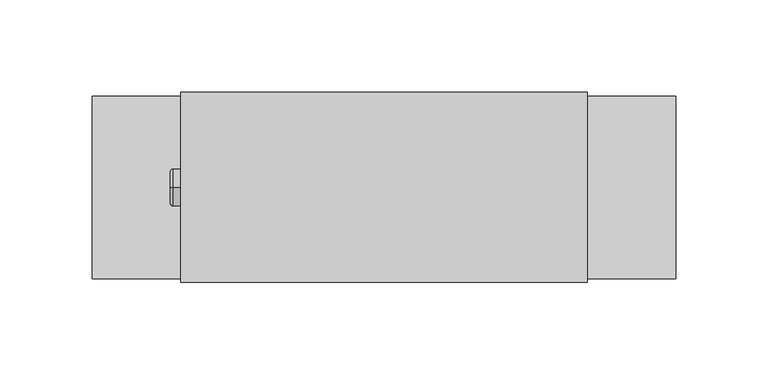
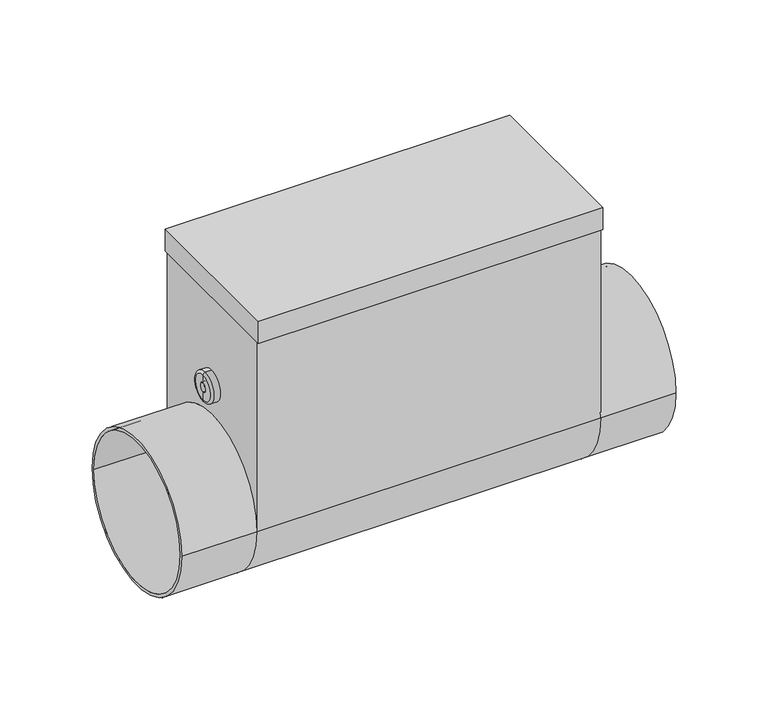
"""IFC4 building model written with IfcOpenShell, lengths in millimetres: proxy geometry, СВ_ВоздухонагревательЭлектрический_КанальныйКруглый_DN100-315_SKH-E : SKH-E-100/1,5."""

from ifc_helpers import new_model, si_unit, point, frame, origin, place, context, project, spatial, polyline, circle_curve, ellipse_curve, trimmed, outline, extrude, source, transform, mapped, element, save
from ifc_brep_helpers import plane_surface, cylinder_surface, revolved_surface, advanced_brep


def mechanical_equipment_1c517ccd(model_context):
    return source(origin(), model_context, "Body", "SolidModel", [
        extrude(outline(polyline([(110.0, -51.5), (-110.0, -51.5), (-110.0, 51.5), (110.0, 51.5), (110.0, -51.5)])), frame((0.0, 0.0, 128.5), z_axis=(0.0, 0.0, 1.0), x_axis=(1.0, 0.0, 0.0)), (0.0, 0.0, 1.0), 15.0),
        advanced_brep(
        [(-158.0, -49.5, 0.0), (-158.0, 49.5, 0.0), (-158.0, -47.5, 0.0), (-158.0, 47.5, 0.0), (-110.0, 47.5, 0.0), (-110.0, -47.5, 0.0), (-110.0, 49.5, 0.0), (-110.0, -49.5, 0.0), (110.0, -47.5, 0.0), (110.0, 47.5, 0.0), (110.0, -49.5, 128.5), (110.0, -49.5, 0.0), (110.0, 49.5, 0.0), (110.0, 49.5, 128.5), (-110.0, -49.5, 128.5), (-110.0, 49.5, 128.5), (158.0, -49.5, 0.0), (158.0, 49.5, 0.0), (158.0, -47.5, 0.0), (158.0, 47.5, 0.0)],
        [
            (0, 1, circle_curve(frame((-158.0, 0.0, 0.0), z_axis=(-1.0, 0.0, 0.0), x_axis=(0.0, 1.0, 0.0)), 49.5)),
            (1, 0, circle_curve(frame((-158.0, 0.0, 0.0), z_axis=(-1.0, 0.0, 0.0), x_axis=(0.0, 1.0, 0.0)), 49.5)),
            (2, 3, circle_curve(frame((-158.0, 0.0, 0.0), z_axis=(1.0, 0.0, 0.0), x_axis=(0.0, 1.0, 0.0)), 47.5)),
            (3, 2, circle_curve(frame((-158.0, 0.0, 0.0), z_axis=(1.0, 0.0, 0.0), x_axis=(0.0, 1.0, 0.0)), 47.5)),
            (3, 4),
            (4, 5, circle_curve(frame((-110.0, 0.0, 0.0), z_axis=(1.0, 0.0, 0.0), x_axis=(0.0, 1.0, 0.0)), 47.5)),
            (5, 2),
            (5, 4, circle_curve(frame((-110.0, 0.0, 0.0), z_axis=(1.0, 0.0, 0.0), x_axis=(0.0, 1.0, 0.0)), 47.5)),
            (1, 6),
            (6, 7, circle_curve(frame((-110.0, 0.0, 0.0), z_axis=(-1.0, 0.0, 0.0), x_axis=(0.0, 1.0, 0.0)), 49.5)),
            (7, 0),
            (7, 6, circle_curve(frame((-110.0, 0.0, 0.0), z_axis=(-1.0, 0.0, 0.0), x_axis=(0.0, 1.0, 0.0)), 49.5)),
            (8, 9, circle_curve(frame((110.0, 0.0, 0.0), z_axis=(1.0, 0.0, 0.0), x_axis=(0.0, 1.0, 0.0)), 47.5)),
            (9, 8, circle_curve(frame((110.0, 0.0, 0.0), z_axis=(1.0, 0.0, 0.0), x_axis=(0.0, 1.0, 0.0)), 47.5)),
            (10, 11),
            (11, 12, circle_curve(frame((110.0, 0.0, 0.0), z_axis=(-1.0, 0.0, 0.0), x_axis=(0.0, 1.0, 0.0)), 49.5)),
            (12, 13),
            (13, 10),
            (7, 14),
            (14, 15),
            (15, 6),
            (6, 12),
            (12, 11, circle_curve(frame((110.0, 0.0, 0.0), z_axis=(-1.0, 0.0, 0.0), x_axis=(0.0, 1.0, 0.0)), 49.5)),
            (11, 7),
            (16, 17, circle_curve(frame((158.0, 0.0, 0.0), z_axis=(1.0, 0.0, 0.0), x_axis=(0.0, 1.0, 0.0)), 49.5)),
            (17, 16, circle_curve(frame((158.0, 0.0, 0.0), z_axis=(1.0, 0.0, 0.0), x_axis=(0.0, 1.0, 0.0)), 49.5)),
            (18, 19, circle_curve(frame((158.0, 0.0, 0.0), z_axis=(-1.0, 0.0, 0.0), x_axis=(0.0, 1.0, 0.0)), 47.5)),
            (19, 18, circle_curve(frame((158.0, 0.0, 0.0), z_axis=(-1.0, 0.0, 0.0), x_axis=(0.0, 1.0, 0.0)), 47.5)),
            (18, 8),
            (9, 19),
            (16, 11),
            (12, 17),
            (10, 14),
            (15, 13),
        ],
        [
            plane_surface(frame((-158.0, 47.5, 0.0), z_axis=(-1.0, 0.0, 0.0), x_axis=(0.0, 0.0, 1.0))),
            revolved_surface(polyline([(-158.0, 47.5, 0.0), (-110.0, 47.5, 0.0)]), (-158.0, 0.0, 0.0), (-1.0, 0.0, 0.0)),
            cylinder_surface(frame((0.0, 0.0, 0.0), z_axis=(1.0, 0.0, 0.0), x_axis=(0.0, 1.0, 0.0)), 49.5),
            plane_surface(frame((110.0, 49.5, 0.0), z_axis=(1.0, 0.0, 0.0), x_axis=(0.0, -1.0, 0.0))),
            plane_surface(frame((-110.0, 49.5, 0.0), z_axis=(-1.0, 0.0, 0.0), x_axis=(0.0, 1.0, 0.0))),
            cylinder_surface(frame((-110.0, 0.0, 0.0), z_axis=(1.0, 0.0, 0.0), x_axis=(0.0, 1.0, 0.0)), 49.5),
            plane_surface(frame((158.0, 47.5, 0.0), z_axis=(1.0, 0.0, 0.0), x_axis=(0.0, 0.0, -1.0))),
            revolved_surface(polyline([(110.0, 47.5, 0.0), (158.0, 47.5, 0.0)]), (110.0, 0.0, 0.0), (-1.0, 0.0, 0.0)),
            plane_surface(frame((-110.0, -49.5, 128.5), z_axis=(0.0, -1.0, 0.0), x_axis=(-1.0, 0.0, 0.0))),
            plane_surface(frame((-110.0, 49.5, 128.5), z_axis=(0.0, 1.0, 0.0), x_axis=(1.0, 0.0, 0.0))),
            plane_surface(frame((110.0, -49.5, 128.5), z_axis=(0.0, 0.0, 1.0), x_axis=(0.0, 1.0, 0.0))),
        ],
        [
            (0, [[1, 2], [3, 4]]),
            (1, [[-4, 5, 6, 7]]),
            (1, [[-3, -7, 8, -5]]),
            (2, [[-2, 9, 10, 11]]),
            (2, [[-1, -11, 12, -9]]),
            (3, [[13, 14]]),
            (3, [[15, 16, 17, 18]]),
            (4, [[-8, -6]]),
            (4, [[19, 20, 21, -12]]),
            (5, [[-10, 22, 23, 24]]),
            (6, [[25, 26], [27, 28]]),
            (7, [[-27, 29, -14, 30]]),
            (7, [[-28, -30, -13, -29]]),
            (2, [[-25, 31, -23, 32]]),
            (2, [[-26, -32, -16, -31]]),
            (8, [[33, -19, -24, -15]]),
            (9, [[-17, -22, -21, 34]]),
            (10, [[-33, -18, -34, -20]]),
        ],
    ),
        advanced_brep(
        [(-114.2840134, 0.0, 59.5), (-114.2840134, 0.0, 79.5), (-110.0, 0.0, 79.5), (-110.0, 0.0, 59.5), (-115.7459771, 0.0, 60.9619637), (-115.7459771, 0.0, 78.0380363), (-115.7459771, 0.0, 66.3948071), (-115.7459771, 0.0, 72.6051929), (-113.4138357, 0.0, 66.3948071), (-113.4138357, 0.0, 72.6051929), (-113.4138357, 0.0, 69.5), (-110.0, 0.0, 69.5)],
        [
            (0, 1, circle_curve(frame((-114.2840134, 0.0, 69.5), z_axis=(1.0, 0.0, 0.0), x_axis=(0.0, 0.0, 1.0)), 10.0)),
            (1, 2),
            (2, 3, circle_curve(frame((-110.0, 0.0, 69.5), z_axis=(-1.0, 0.0, 0.0), x_axis=(0.0, 0.0, 1.0)), 10.0)),
            (3, 0),
            (1, 0, circle_curve(frame((-114.2840134, 0.0, 69.5), z_axis=(1.0, 0.0, 0.0), x_axis=(0.0, 0.0, 1.0)), 10.0)),
            (3, 2, circle_curve(frame((-110.0, 0.0, 69.5), z_axis=(-1.0, 0.0, 0.0), x_axis=(0.0, 0.0, 1.0)), 10.0)),
            (4, 5, circle_curve(frame((-115.7459771, 0.0, 69.5), z_axis=(1.0, 0.0, 0.0), x_axis=(0.0, 0.0, 1.0)), 8.5380363)),
            (5, 1, circle_curve(frame((-114.2840134, 0.0, 78.0380363), z_axis=(0.0, 1.0, 0.0), x_axis=(1.0, 0.0, 0.0)), 1.4619637)),
            (0, 4, circle_curve(frame((-114.2840134, 0.0, 60.9619637), z_axis=(0.0, 1.0, 0.0), x_axis=(1.0, 0.0, 0.0)), 1.4619637)),
            (5, 4, circle_curve(frame((-115.7459771, 0.0, 69.5), z_axis=(1.0, 0.0, 0.0), x_axis=(0.0, 0.0, 1.0)), 8.5380363)),
            (6, 7, circle_curve(frame((-115.7459771, 0.0, 69.5), z_axis=(1.0, 0.0, 0.0), x_axis=(0.0, 0.0, 1.0)), 3.1051929)),
            (7, 5),
            (4, 6),
            (7, 6, circle_curve(frame((-115.7459771, 0.0, 69.5), z_axis=(1.0, 0.0, 0.0), x_axis=(0.0, 0.0, 1.0)), 3.1051929)),
            (8, 9, circle_curve(frame((-113.4138357, 0.0, 69.5), z_axis=(1.0, 0.0, 0.0), x_axis=(0.0, 0.0, 1.0)), 3.1051929)),
            (9, 7),
            (6, 8),
            (9, 8, circle_curve(frame((-113.4138357, 0.0, 69.5), z_axis=(1.0, 0.0, 0.0), x_axis=(0.0, 0.0, 1.0)), 3.1051929)),
            (10, 9),
            (8, 10),
            (2, 11),
            (11, 3),
        ],
        [
            cylinder_surface(frame((-145.6635229, 0.0, 69.5), z_axis=(-1.0, 0.0, 0.0), x_axis=(0.0, 0.0, 1.0)), 10.0),
            revolved_surface(trimmed(ellipse_curve(frame((-114.2840134, 0.0, 78.0380363), z_axis=(0.0, -1.0, 0.0), x_axis=(1.0, 0.0, 0.0)), 1.4619637, 1.4619637), [point((-114.2840134, 0.0, 79.5))], [point((-115.7459771, 0.0, 78.0380363))], True, "CARTESIAN"), (-145.6635229, 0.0, 69.5), (-1.0, 0.0, 0.0)),
            plane_surface(frame((-115.7459771, 0.0, 69.5), z_axis=(-1.0, 0.0, 0.0), x_axis=(0.0, 0.0, 1.0))),
            revolved_surface(polyline([(-115.7459771, 0.0, 72.6051929), (-113.4138357, 0.0, 72.6051929)]), (-145.6635229, 0.0, 69.5), (-1.0, 0.0, 0.0)),
            plane_surface(frame((-113.4138357, 0.0, 69.5), z_axis=(-1.0, 0.0, 0.0), x_axis=(0.0, 0.0, 1.0))),
            plane_surface(frame((-110.0, 0.0, 69.5), z_axis=(1.0, 0.0, 0.0), x_axis=(0.0, 0.0, 1.0))),
        ],
        [
            (0, [[1, 2, 3, 4]]),
            (0, [[5, -4, 6, -2]]),
            (1, [[7, 8, -1, 9]]),
            (1, [[10, -9, -5, -8]]),
            (2, [[11, 12, -7, 13]]),
            (2, [[14, -13, -10, -12]]),
            (3, [[15, 16, -11, 17]]),
            (3, [[18, -17, -14, -16]]),
            (4, [[19, -15, 20]]),
            (4, [[-20, -18, -19]]),
            (5, [[-3, 21, 22]]),
            (5, [[-6, -22, -21]]),
        ],
    ),
    ])


if __name__ == "__main__":
    model = new_model("IFC4")
    model_context = context("Model", 3, world=origin())
    ifc_project = project(units=[si_unit("LENGTHUNIT", "METRE", prefix="MILLI")], contexts=[model_context])
    site = spatial("IfcSite", under=ifc_project)
    building = spatial("IfcBuilding", under=site)
    placement = place(None, origin())
    mechanical_equipment_shape = mechanical_equipment_1c517ccd(model_context)
    element("IfcBuildingElementProxy", 1, Name="СВ_ВоздухонагревательЭлектрический_КанальныйКруглый_DN100-315_SKH-E : SKH-E-100/1,5", ObjectType="СВ_ВоздухонагревательЭлектрический_КанальныйКруглый_DN100-315_SKH-E : SKH-E-100/1,5", at=placement, inside=building, context=model_context, shape_type="MappedRepresentation", body=[
        mapped(mechanical_equipment_shape, transform((0.0, 0.0, 0.0), x_axis=(1.0, 0.0, 0.0), y_axis=(0.0, 1.0, 0.0), z_axis=(0.0, 0.0, 1.0))),
    ])
    save(model, "model.ifc")
